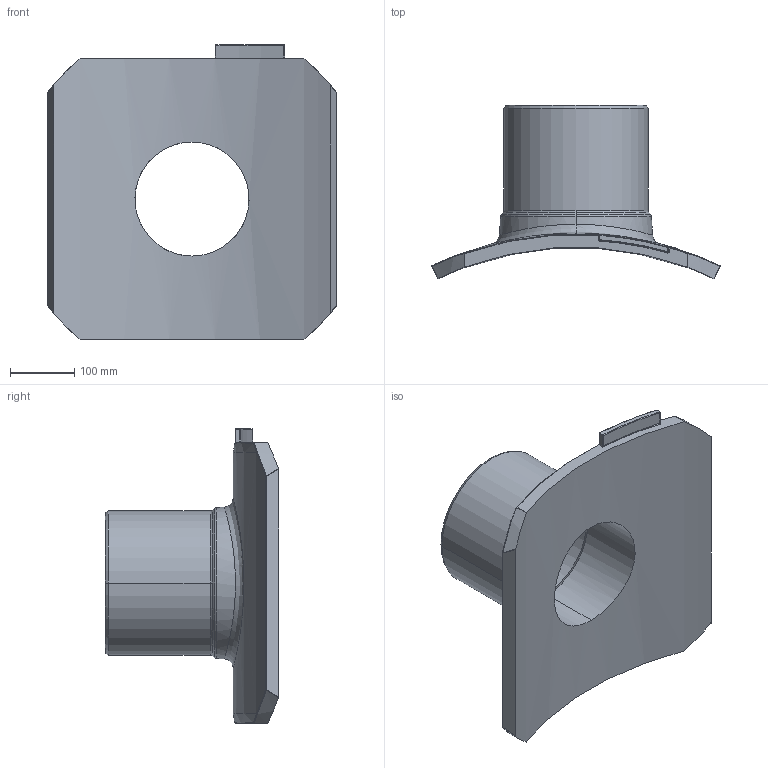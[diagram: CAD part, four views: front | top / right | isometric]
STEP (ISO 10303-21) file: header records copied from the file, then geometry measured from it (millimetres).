
FILE_DESCRIPTION((''),'2;1');
FILE_NAME('SA-UNI_D1000_225-01','2024-07-01T10:57:01',('mikulicp'),(''),'CREO PARAMETRIC BY PTC INC, 2022124','CREO PARAMETRIC BY PTC INC, 2022124','');
FILE_SCHEMA(('AP242_MANAGED_MODEL_BASED_3D_ENGINEERING_MIM_LF { 1 0 10303 442 1 1 4 }'));
Length unit declared in the file: millimetre
Products named in the file (2): SA-UNI_D1000_225-01; PE100
Bounding box: 449.67 x 270.91 x 460 mm (x, y, z)
Volume: 6788774.8 mm3; surface area: 647574.1 mm2
Topology: 1 solids, 1 shells, 220 faces, 547 edges, 345 vertices
Faces by surface type: bspline 72, plane 66, cylinder 47, sphere 12, cone 12, torus 11
Entity records: 14355 total; most frequent: CARTESIAN_POINT 6723, ORIENTED_EDGE 1094, DIRECTION 780, PRESENTATION_STYLE_ASSIGNMENT 559, STYLED_ITEM 548, CURVE_STYLE 547, EDGE_CURVE 547, VERTEX_POINT 345
